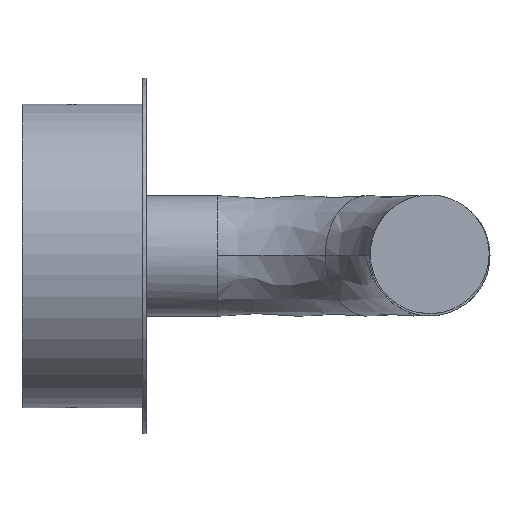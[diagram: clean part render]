
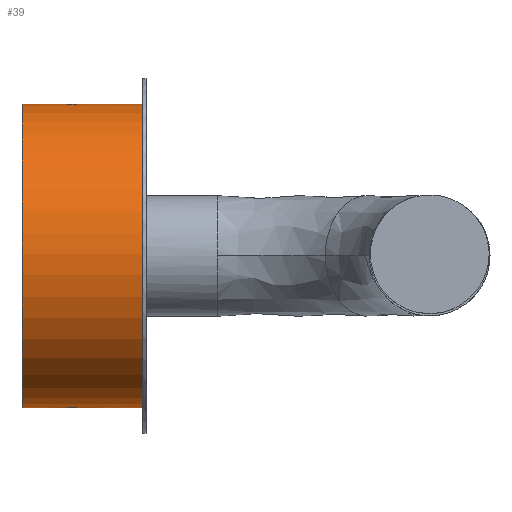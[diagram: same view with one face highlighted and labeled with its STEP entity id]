
A CAD part, top view. The second image highlights one B-rep face of the part: STEP entity #39.
In plain terms, the highlighted cylindrical face has radius 428.5 mm (diameter 857 mm), a partial arc.
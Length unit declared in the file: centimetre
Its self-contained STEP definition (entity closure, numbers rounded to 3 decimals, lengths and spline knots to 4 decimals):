
#39=ADVANCED_FACE('',(#71),#439,.T.);
#71=FACE_OUTER_BOUND('',#103,.T.);
#103=EDGE_LOOP('',(#170,#171,#172,#173,#174,#175,#176,#177));
#170=ORIENTED_EDGE('',*,*,#267,.F.);
#171=ORIENTED_EDGE('',*,*,#270,.T.);
#172=ORIENTED_EDGE('',*,*,#265,.T.);
#173=ORIENTED_EDGE('',*,*,#269,.T.);
#174=ORIENTED_EDGE('',*,*,#268,.T.);
#175=ORIENTED_EDGE('',*,*,#275,.F.);
#176=ORIENTED_EDGE('',*,*,#256,.T.);
#177=ORIENTED_EDGE('',*,*,#274,.F.);
#256=EDGE_CURVE('',#382,#393,#316,.T.);
#265=EDGE_CURVE('',#391,#385,#322,.T.);
#267=EDGE_CURVE('',#388,#394,#346,.T.);
#268=EDGE_CURVE('',#392,#395,#347,.T.);
#269=EDGE_CURVE('',#385,#392,#323,.T.);
#270=EDGE_CURVE('',#388,#391,#324,.T.);
#274=EDGE_CURVE('',#394,#393,#328,.T.);
#275=EDGE_CURVE('',#382,#395,#329,.T.);
#316=B_SPLINE_CURVE_WITH_KNOTS('',3,(#654,#655,#656,#657,#658,#659,#660,
#661,#662,#663,#664,#665,#666,#667,#668,#669,#670,#671),.UNSPECIFIED.,.F.,
 .F.,(4,2,2,2,2,2,2,2,4),(-9.0419,-8.2884,-7.535,
-6.7815,-6.0279,-5.2745,-4.521,
-3.7675,-3.014),.UNSPECIFIED.);
#322=B_SPLINE_CURVE_WITH_KNOTS('',3,(#721,#722,#723,#724,#725,#726,#727,
#728,#729,#730,#731,#732,#733,#734,#735,#736,#737,#738),.UNSPECIFIED.,.F.,
 .F.,(4,2,2,2,2,2,2,2,4),(3.014,3.7674,4.5209,
5.2744,6.0279,6.7814,7.5348,8.2884,
9.0419),.UNSPECIFIED.);
#323=B_SPLINE_CURVE_WITH_KNOTS('',1,(#754,#755),.UNSPECIFIED.,.F.,.F.,(2,
2),(22.01,34.01),.UNSPECIFIED.);
#324=B_SPLINE_CURVE_WITH_KNOTS('',1,(#756,#757),.UNSPECIFIED.,.F.,.F.,(2,
2),(0.01,18.01),.UNSPECIFIED.);
#328=B_SPLINE_CURVE_WITH_KNOTS('',1,(#772,#773),.UNSPECIFIED.,.F.,.F.,(2,
2),(0.01,18.01),.UNSPECIFIED.);
#329=B_SPLINE_CURVE_WITH_KNOTS('',1,(#774,#775),.UNSPECIFIED.,.F.,.F.,(2,
2),(22.01,34.01),.UNSPECIFIED.);
#346=(
BOUNDED_CURVE()
B_SPLINE_CURVE(2,(#744,#745,#746,#747,#748),.UNSPECIFIED.,.F.,.F.)
B_SPLINE_CURVE_WITH_KNOTS((3,2,3),(-403.8517,-336.5431,
-269.2345),.UNSPECIFIED.)
CURVE()
GEOMETRIC_REPRESENTATION_ITEM()
RATIONAL_B_SPLINE_CURVE((1.,0.707,1.,0.707,1.))
REPRESENTATION_ITEM('')
);
#347=(
BOUNDED_CURVE()
B_SPLINE_CURVE(2,(#749,#750,#751,#752,#753),.UNSPECIFIED.,.F.,.F.)
B_SPLINE_CURVE_WITH_KNOTS((3,2,3),(134.6172,201.9259,269.2345),
 .UNSPECIFIED.)
CURVE()
GEOMETRIC_REPRESENTATION_ITEM()
RATIONAL_B_SPLINE_CURVE((1.,0.707,1.,0.707,1.))
REPRESENTATION_ITEM('')
);
#382=VERTEX_POINT('',#640);
#385=VERTEX_POINT('',#643);
#388=VERTEX_POINT('',#646);
#391=VERTEX_POINT('',#649);
#392=VERTEX_POINT('',#650);
#393=VERTEX_POINT('',#651);
#394=VERTEX_POINT('',#652);
#395=VERTEX_POINT('',#653);
#439=CYLINDRICAL_SURFACE('',#549,42.85);
#549=AXIS2_PLACEMENT_3D('',#639,#580,$);
#580=DIRECTION('',(-1.,0.,0.));
#639=CARTESIAN_POINT('',(4265.5099,183.5834,-16.6118));
#640=CARTESIAN_POINT('',(4260.5099,140.7334,-16.6118));
#643=CARTESIAN_POINT('',(4260.5099,226.4334,-16.6118));
#646=CARTESIAN_POINT('',(4282.5099,226.4334,-16.6118));
#649=CARTESIAN_POINT('',(4264.5099,226.4334,-16.6118));
#650=CARTESIAN_POINT('',(4248.5099,226.4334,-16.6118));
#651=CARTESIAN_POINT('',(4264.5099,140.7334,-16.6118));
#652=CARTESIAN_POINT('',(4282.5099,140.7334,-16.6118));
#653=CARTESIAN_POINT('',(4248.5099,140.7334,-16.6118));
#654=CARTESIAN_POINT('',(4260.5099,140.7334,-16.6118));
#655=CARTESIAN_POINT('',(4260.5099,140.7334,-16.3496));
#656=CARTESIAN_POINT('',(4260.562,140.7363,-16.0879));
#657=CARTESIAN_POINT('',(4260.7625,140.7451,-15.6043));
#658=CARTESIAN_POINT('',(4260.9106,140.7509,-15.3826));
#659=CARTESIAN_POINT('',(4261.2806,140.7626,-15.0126));
#660=CARTESIAN_POINT('',(4261.5023,140.7684,-14.8644));
#661=CARTESIAN_POINT('',(4261.9859,140.7772,-14.6639));
#662=CARTESIAN_POINT('',(4262.2477,140.7801,-14.6118));
#663=CARTESIAN_POINT('',(4262.772,140.7801,-14.6118));
#664=CARTESIAN_POINT('',(4263.0338,140.7772,-14.6639));
#665=CARTESIAN_POINT('',(4263.5174,140.7684,-14.8643));
#666=CARTESIAN_POINT('',(4263.739,140.7626,-15.0125));
#667=CARTESIAN_POINT('',(4264.109,140.7509,-15.3825));
#668=CARTESIAN_POINT('',(4264.2572,140.7451,-15.6042));
#669=CARTESIAN_POINT('',(4264.4577,140.7363,-16.0878));
#670=CARTESIAN_POINT('',(4264.5099,140.7334,-16.3496));
#671=CARTESIAN_POINT('',(4264.5099,140.7334,-16.6118));
#721=CARTESIAN_POINT('',(4264.5099,226.4334,-16.6118));
#722=CARTESIAN_POINT('',(4264.5099,226.4334,-16.3496));
#723=CARTESIAN_POINT('',(4264.4577,226.4305,-16.0879));
#724=CARTESIAN_POINT('',(4264.2573,226.4217,-15.6043));
#725=CARTESIAN_POINT('',(4264.1091,226.4159,-15.3826));
#726=CARTESIAN_POINT('',(4263.7391,226.4042,-15.0126));
#727=CARTESIAN_POINT('',(4263.5175,226.3984,-14.8644));
#728=CARTESIAN_POINT('',(4263.0338,226.3896,-14.6639));
#729=CARTESIAN_POINT('',(4262.772,226.3867,-14.6118));
#730=CARTESIAN_POINT('',(4262.2477,226.3867,-14.6118));
#731=CARTESIAN_POINT('',(4261.986,226.3896,-14.6639));
#732=CARTESIAN_POINT('',(4261.5024,226.3984,-14.8643));
#733=CARTESIAN_POINT('',(4261.2807,226.4042,-15.0125));
#734=CARTESIAN_POINT('',(4260.9107,226.4159,-15.3825));
#735=CARTESIAN_POINT('',(4260.7625,226.4217,-15.6042));
#736=CARTESIAN_POINT('',(4260.5621,226.4305,-16.0878));
#737=CARTESIAN_POINT('',(4260.5099,226.4334,-16.3496));
#738=CARTESIAN_POINT('',(4260.5099,226.4334,-16.6118));
#744=CARTESIAN_POINT('',(4282.5099,226.4334,-16.6118));
#745=CARTESIAN_POINT('',(4282.5099,226.4334,26.2382));
#746=CARTESIAN_POINT('',(4282.5099,183.5834,26.2382));
#747=CARTESIAN_POINT('',(4282.5099,140.7334,26.2382));
#748=CARTESIAN_POINT('',(4282.5099,140.7334,-16.6118));
#749=CARTESIAN_POINT('',(4248.5099,226.4334,-16.6118));
#750=CARTESIAN_POINT('',(4248.5099,226.4334,26.2382));
#751=CARTESIAN_POINT('',(4248.5099,183.5834,26.2382));
#752=CARTESIAN_POINT('',(4248.5099,140.7334,26.2382));
#753=CARTESIAN_POINT('',(4248.5099,140.7334,-16.6118));
#754=CARTESIAN_POINT('',(4260.5099,226.4334,-16.6118));
#755=CARTESIAN_POINT('',(4248.5099,226.4334,-16.6118));
#756=CARTESIAN_POINT('',(4282.5099,226.4334,-16.6118));
#757=CARTESIAN_POINT('',(4264.5099,226.4334,-16.6118));
#772=CARTESIAN_POINT('',(4282.5099,140.7334,-16.6118));
#773=CARTESIAN_POINT('',(4264.5099,140.7334,-16.6118));
#774=CARTESIAN_POINT('',(4260.5099,140.7334,-16.6118));
#775=CARTESIAN_POINT('',(4248.5099,140.7334,-16.6118));
